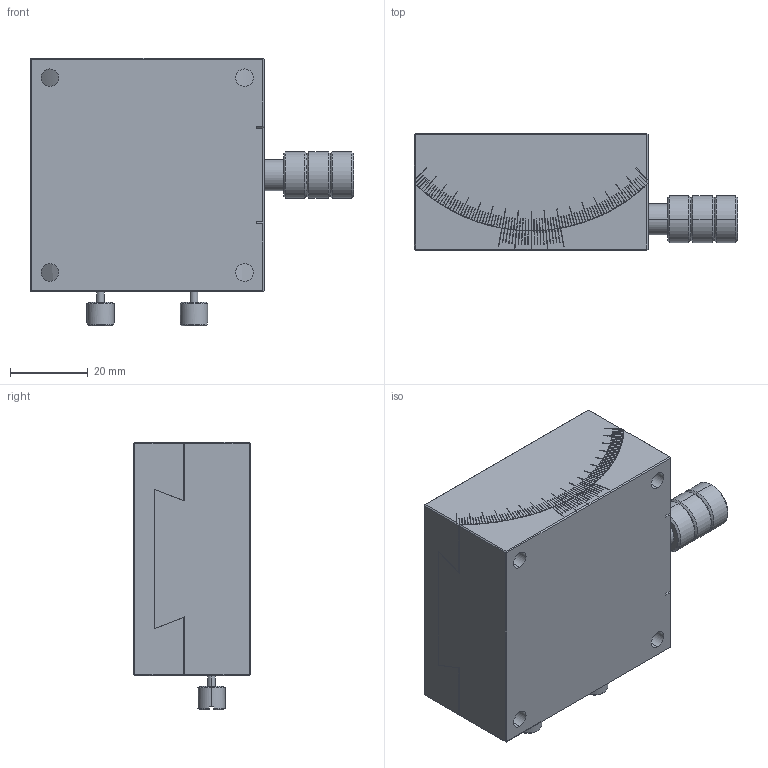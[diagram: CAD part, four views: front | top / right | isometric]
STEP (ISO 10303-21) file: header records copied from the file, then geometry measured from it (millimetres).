
FILE_DESCRIPTION (( 'STEP AP214' ), '1' );
FILE_NAME ('PT-SD345蚾饜极.STEP', '2025-01-03T09:20:00', ( '' ), ( '' ), 'SwSTEP 2.0', 'SolidWorks 2022', '' );
FILE_SCHEMA (( 'AUTOMOTIVE_DESIGN' ));
Length unit declared in the file: millimetre
Products named in the file (3): PT-SD345 賑雄す怢; PT-SD345蚾饜极; PT-SD345 菁釱
Assembly tree (2 placements, depth 2):
  PT-SD345蚾饜极
    PT-SD345 菁釱
    PT-SD345 賑雄す怢
Bounding box: 83 x 30 x 68.7 mm (x, y, z)
Volume: 104171.5 mm3; surface area: 29148.5 mm2
Topology: 2 solids, 2 shells, 654 faces, 1829 edges, 1179 vertices
Faces by surface type: plane 518, cone 70, cylinder 66
Entity records: 25381 total; most frequent: CARTESIAN_POINT 4073, ORIENTED_EDGE 3614, DIRECTION 3479, EDGE_CURVE 1807, LINE 1377, VECTOR 1377, VERTEX_POINT 1179, AXIS2_PLACEMENT_3D 1051
